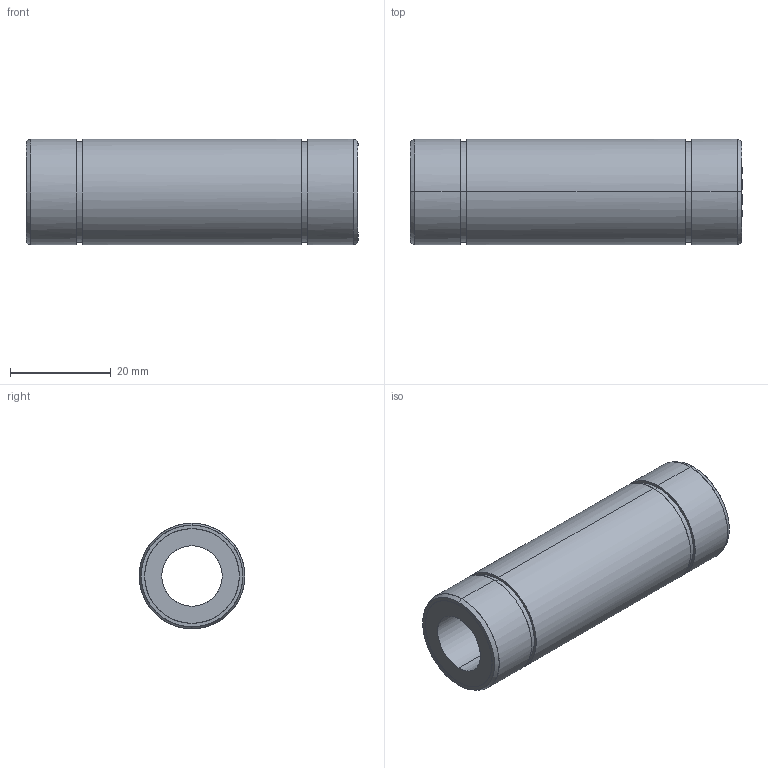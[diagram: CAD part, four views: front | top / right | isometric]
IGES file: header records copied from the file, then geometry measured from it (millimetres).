
Global section: file name: No Iges File Name specified; native system: AutoDesk Inventor R10; preprocessor: AutoDesk Inventor Iges Exporter R10; author: No Author specified; organization: No Organization specified; date: 20101216.152729; units: millimetre
Bounding box: 66 x 21 x 21 mm (x, y, z)
Surface area: 7390.9 mm2 (no closed solid volume)
Topology: 0 solids, 0 shells, 28 faces, 184 edges, 184 vertices
Faces by surface type: bspline 28
